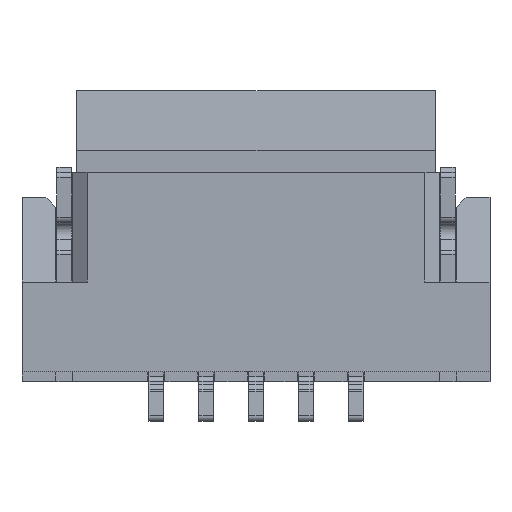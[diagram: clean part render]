
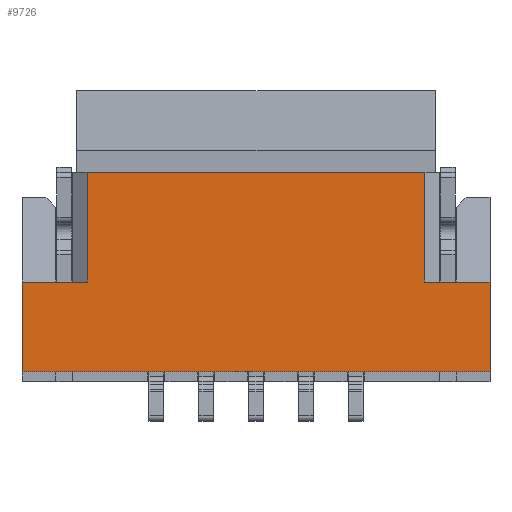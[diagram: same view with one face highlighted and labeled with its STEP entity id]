
A CAD part, front view. The second image highlights one B-rep face of the part: STEP entity #9726.
In plain terms, the highlighted planar face has unit normal (0, -1, 0).
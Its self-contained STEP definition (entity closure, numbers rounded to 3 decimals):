
#1=DIRECTION('',(0.,0.,-1.));
#2=VECTOR('',#1,0.9);
#3=CARTESIAN_POINT('',(-1.85,-0.575,-0.05));
#4=LINE('',#3,#2);
#5=DIRECTION('',(-1.,0.,0.));
#6=VECTOR('',#5,0.653);
#7=CARTESIAN_POINT('',(-1.197,-0.575,-0.05));
#8=LINE('',#7,#6);
#9=DIRECTION('',(0.,0.,-1.));
#10=VECTOR('',#9,1.1);
#11=CARTESIAN_POINT('',(-1.197,-0.575,1.05));
#12=LINE('',#11,#10);
#13=DIRECTION('',(0.,0.,-1.));
#14=VECTOR('',#13,1.1);
#15=CARTESIAN_POINT('',(2.197,-0.575,1.05));
#16=LINE('',#15,#14);
#17=DIRECTION('',(1.,0.,0.));
#18=VECTOR('',#17,0.653);
#19=CARTESIAN_POINT('',(2.197,-0.575,-0.05));
#20=LINE('',#19,#18);
#21=DIRECTION('',(0.,0.,-1.));
#22=VECTOR('',#21,0.9);
#23=CARTESIAN_POINT('',(2.85,-0.575,-0.05));
#24=LINE('',#23,#22);
#65=DIRECTION('',(1.,0.,0.));
#66=VECTOR('',#65,4.7);
#67=CARTESIAN_POINT('',(-1.85,-0.575,-0.95));
#68=LINE('',#67,#66);
#2502=DIRECTION('',(-1.,0.,0.));
#2503=VECTOR('',#2502,3.394);
#2504=CARTESIAN_POINT('',(2.197,-0.575,1.05));
#2505=LINE('',#2504,#2503);
#7419=CARTESIAN_POINT('',(2.197,-0.575,1.05));
#7420=CARTESIAN_POINT('',(2.197,-0.575,-0.05));
#7421=VERTEX_POINT('',#7419);
#7422=VERTEX_POINT('',#7420);
#7423=CARTESIAN_POINT('',(2.85,-0.575,-0.05));
#7424=VERTEX_POINT('',#7423);
#7425=CARTESIAN_POINT('',(2.85,-0.575,-0.95));
#7426=VERTEX_POINT('',#7425);
#8561=CARTESIAN_POINT('',(-1.197,-0.575,1.05));
#8562=CARTESIAN_POINT('',(-1.197,-0.575,-0.05));
#8563=VERTEX_POINT('',#8561);
#8564=VERTEX_POINT('',#8562);
#8565=CARTESIAN_POINT('',(-1.85,-0.575,-0.05));
#8566=VERTEX_POINT('',#8565);
#8567=CARTESIAN_POINT('',(-1.85,-0.575,-0.95));
#8568=VERTEX_POINT('',#8567);
#9703=CARTESIAN_POINT('',(0.,-0.575,0.05));
#9704=DIRECTION('',(0.,1.,0.));
#9705=DIRECTION('',(1.,0.,0.));
#9706=AXIS2_PLACEMENT_3D('',#9703,#9704,#9705);
#9707=PLANE('',#9706);
#9709=ORIENTED_EDGE('',*,*,#9708,.F.);
#9711=ORIENTED_EDGE('',*,*,#9710,.F.);
#9713=ORIENTED_EDGE('',*,*,#9712,.F.);
#9715=ORIENTED_EDGE('',*,*,#9714,.F.);
#9717=ORIENTED_EDGE('',*,*,#9716,.F.);
#9719=ORIENTED_EDGE('',*,*,#9718,.T.);
#9721=ORIENTED_EDGE('',*,*,#9720,.T.);
#9723=ORIENTED_EDGE('',*,*,#9722,.T.);
#9724=EDGE_LOOP('',(#9709,#9711,#9713,#9715,#9717,#9719,#9721,#9723));
#9725=FACE_OUTER_BOUND('',#9724,.F.);
#9708=EDGE_CURVE('',#8568,#7426,#68,.T.);
#9710=EDGE_CURVE('',#8566,#8568,#4,.T.);
#9712=EDGE_CURVE('',#8564,#8566,#8,.T.);
#9714=EDGE_CURVE('',#8563,#8564,#12,.T.);
#9716=EDGE_CURVE('',#7421,#8563,#2505,.T.);
#9718=EDGE_CURVE('',#7421,#7422,#16,.T.);
#9720=EDGE_CURVE('',#7422,#7424,#20,.T.);
#9722=EDGE_CURVE('',#7424,#7426,#24,.T.);
#9726=ADVANCED_FACE('',(#9725),#9707,.F.);
